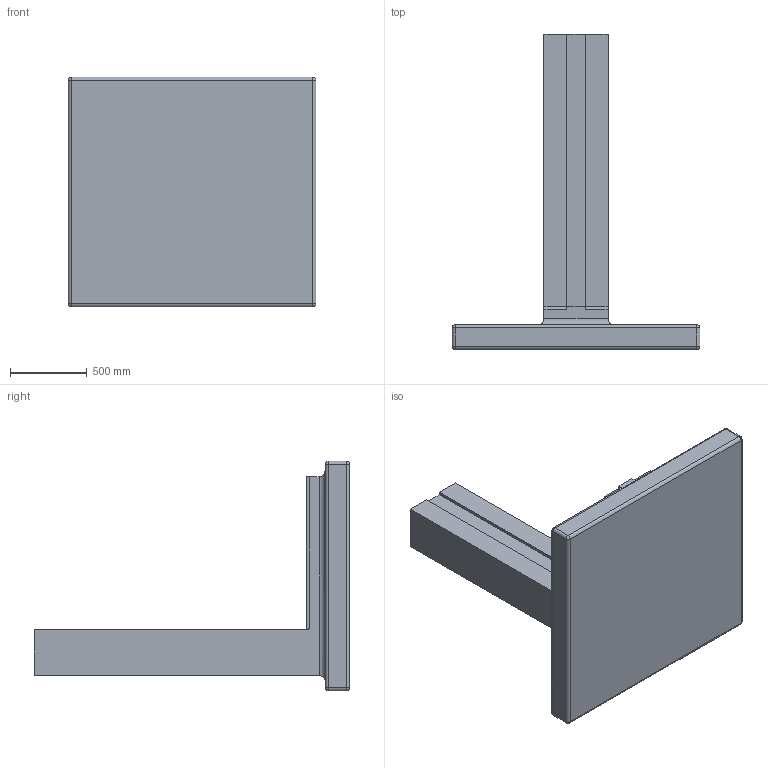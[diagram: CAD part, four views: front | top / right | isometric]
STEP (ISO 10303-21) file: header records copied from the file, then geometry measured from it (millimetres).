
FILE_DESCRIPTION (( 'STEP AP203' ), '1' );
FILE_NAME ('Coulisseau.STEP', '2009-12-04T11:20:15', ( 'Famille Couzi' ), ( '' ), 'SwSTEP 2.0', 'SolidWorks 2005143', '' );
FILE_SCHEMA (( 'CONFIG_CONTROL_DESIGN' ));
Length unit declared in the file: millimetre
Products named in the file (1): Coulisseau
Bounding box: 1619.48 x 2060 x 1500 mm (x, y, z)
Volume: 668251297.7 mm3; surface area: 8730318 mm2
Topology: 1 solids, 1 shells, 49 faces, 114 edges, 60 vertices
Faces by surface type: plane 23, cylinder 18, sphere 8
Entity records: 1369 total; most frequent: DIRECTION 230, CARTESIAN_POINT 228, ORIENTED_EDGE 212, EDGE_CURVE 106, AXIS2_PLACEMENT_3D 78, VECTOR 74, LINE 74, VERTEX_POINT 60
